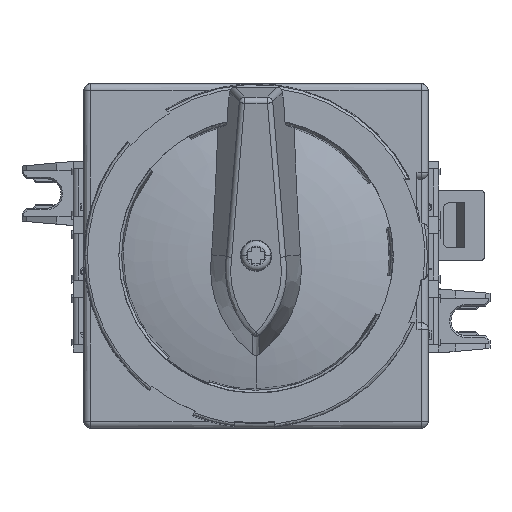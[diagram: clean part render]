
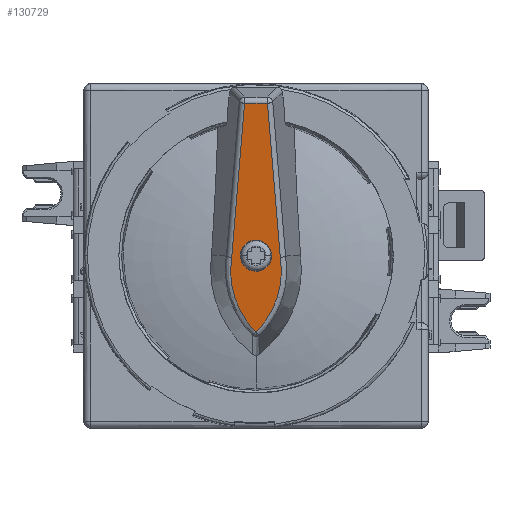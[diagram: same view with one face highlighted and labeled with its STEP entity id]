
A CAD part, top view. The second image highlights one B-rep face of the part: STEP entity #130729.
In plain terms, the highlighted planar face has unit normal (0, -0.159, 0.987).
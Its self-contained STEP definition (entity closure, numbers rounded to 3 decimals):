
#670 = EDGE_LOOP ( 'NONE', ( #82387, #173853 ) ) ;
#3669 =( BOUNDED_CURVE ( )  B_SPLINE_CURVE ( 3, ( #117276, #26530, #144587, #104889 ),
 .UNSPECIFIED., .F., .F. ) 
 B_SPLINE_CURVE_WITH_KNOTS ( ( 4, 4 ),
 ( 0., 1. ),
 .UNSPECIFIED. ) 
 CURVE ( )  GEOMETRIC_REPRESENTATION_ITEM ( )  RATIONAL_B_SPLINE_CURVE ( ( 1., 0.926, 0.926, 1. ) ) 
 REPRESENTATION_ITEM ( '' )  );
#4485 = DIRECTION ( 'NONE',  ( 0., 0.987, 0.159 ) ) ;
#5729 = VERTEX_POINT ( 'NONE', #119451 ) ;
#8077 = CARTESIAN_POINT ( 'NONE',  ( 3., 238.831, 158.683 ) ) ;
#18666 = VERTEX_POINT ( 'NONE', #103585 ) ;
#18946 = VECTOR ( 'NONE', #130253, 1000. ) ;
#23779 = VERTEX_POINT ( 'NONE', #35813 ) ;
#26530 = CARTESIAN_POINT ( 'NONE',  ( 6.735, 242.518, 159.276 ) ) ;
#35813 = CARTESIAN_POINT ( 'NONE',  ( -1.514, 252.689, 160.911 ) ) ;
#36093 = ORIENTED_EDGE ( 'NONE', *, *, #92495, .T. ) ;
#36099 = CARTESIAN_POINT ( 'NONE',  ( 3., 255.925, 161.432 ) ) ;
#37073 =( BOUNDED_CURVE ( )  B_SPLINE_CURVE ( 3, ( #63574, #158691, #62724, #173538 ),
 .UNSPECIFIED., .F., .T. ) 
 B_SPLINE_CURVE_WITH_KNOTS ( ( 4, 4 ),
 ( 0., 1. ),
 .UNSPECIFIED. ) 
 CURVE ( )  GEOMETRIC_REPRESENTATION_ITEM ( )  RATIONAL_B_SPLINE_CURVE ( ( 1., 0.333, 0.333, 1. ) ) 
 REPRESENTATION_ITEM ( '' )  );
#37820 = CARTESIAN_POINT ( 'NONE',  ( 7.514, 252.689, 160.911 ) ) ;
#39923 = VECTOR ( 'NONE', #59516, 1000. ) ;
#41390 = VERTEX_POINT ( 'NONE', #37820 ) ;
#43957 = CARTESIAN_POINT ( 'NONE',  ( -2.361, 247.509, 160.078 ) ) ;
#50111 = EDGE_CURVE ( 'NONE', #23779, #119622, #143575, .T. ) ;
#59516 = DIRECTION ( 'NONE',  ( -0.082, 0.984, 0.158 ) ) ;
#60366 = CARTESIAN_POINT ( 'NONE',  ( 9.013, 234.69, 158.017 ) ) ;
#62724 = CARTESIAN_POINT ( 'NONE',  ( -2.8, 250.125, 160.499 ) ) ;
#62930 = ORIENTED_EDGE ( 'NONE', *, *, #50111, .T. ) ;
#63574 = CARTESIAN_POINT ( 'NONE',  ( 3., 255.925, 161.432 ) ) ;
#67882 = PLANE ( 'NONE',  #171661 ) ;
#70496 = CARTESIAN_POINT ( 'NONE',  ( 9., 234.689, 158.017 ) ) ;
#73120 = VERTEX_POINT ( 'NONE', #169266 ) ;
#73696 = VERTEX_POINT ( 'NONE', #80860 ) ;
#74550 = ORIENTED_EDGE ( 'NONE', *, *, #132365, .T. ) ;
#80860 = CARTESIAN_POINT ( 'NONE',  ( 3., 250.125, 160.499 ) ) ;
#82387 = ORIENTED_EDGE ( 'NONE', *, *, #103582, .F. ) ;
#87859 = EDGE_CURVE ( 'NONE', #18666, #23779, #147155, .T. ) ;
#87958 = CARTESIAN_POINT ( 'NONE',  ( 9., 281.351, 165.521 ) ) ;
#89708 = EDGE_CURVE ( 'NONE', #73696, #5729, #140501, .T. ) ;
#92495 = EDGE_CURVE ( 'NONE', #73120, #18666, #167240, .T. ) ;
#95875 = CARTESIAN_POINT ( 'NONE',  ( -0.735, 242.518, 159.276 ) ) ;
#103582 = EDGE_CURVE ( 'NONE', #5729, #73696, #37073, .T. ) ;
#103585 = CARTESIAN_POINT ( 'NONE',  ( 0.873, 281.351, 165.521 ) ) ;
#104085 = ORIENTED_EDGE ( 'NONE', *, *, #87859, .T. ) ;
#104889 = CARTESIAN_POINT ( 'NONE',  ( 7.514, 252.689, 160.911 ) ) ;
#106576 = DIRECTION ( 'NONE',  ( -0.082, -0.984, -0.158 ) ) ;
#112736 = CARTESIAN_POINT ( 'NONE',  ( 3., 250.125, 160.499 ) ) ;
#117276 = CARTESIAN_POINT ( 'NONE',  ( 3., 238.831, 158.683 ) ) ;
#118989 = CARTESIAN_POINT ( 'NONE',  ( -2.933, 235.657, 158.172 ) ) ;
#119451 = CARTESIAN_POINT ( 'NONE',  ( 3., 255.925, 161.432 ) ) ;
#119622 = VERTEX_POINT ( 'NONE', #8077 ) ;
#127342 = LINE ( 'NONE', #60366, #39923 ) ;
#128165 = VECTOR ( 'NONE', #106576, 1000. ) ;
#130253 = DIRECTION ( 'NONE',  ( -1., 0., 0. ) ) ;
#130604 = EDGE_CURVE ( 'NONE', #119622, #41390, #3669, .T. ) ;
#130729 = ADVANCED_FACE ( 'NONE', ( #137478, #151525 ), #67882, .T. ) ;
#132365 = EDGE_CURVE ( 'NONE', #41390, #73120, #127342, .T. ) ;
#136290 = ORIENTED_EDGE ( 'NONE', *, *, #130604, .T. ) ;
#137478 = FACE_BOUND ( 'NONE', #670, .T. ) ;
#140501 =( BOUNDED_CURVE ( )  B_SPLINE_CURVE ( 3, ( #112736, #155859, #168190, #36099 ),
 .UNSPECIFIED., .F., .T. ) 
 B_SPLINE_CURVE_WITH_KNOTS ( ( 4, 4 ),
 ( 0., 1. ),
 .UNSPECIFIED. ) 
 CURVE ( )  GEOMETRIC_REPRESENTATION_ITEM ( )  RATIONAL_B_SPLINE_CURVE ( ( 1., 0.333, 0.333, 1. ) ) 
 REPRESENTATION_ITEM ( '' )  );
#143575 =( BOUNDED_CURVE ( )  B_SPLINE_CURVE ( 3, ( #152272, #43957, #95875, #166313 ),
 .UNSPECIFIED., .F., .T. ) 
 B_SPLINE_CURVE_WITH_KNOTS ( ( 4, 4 ),
 ( 0., 1. ),
 .UNSPECIFIED. ) 
 CURVE ( )  GEOMETRIC_REPRESENTATION_ITEM ( )  RATIONAL_B_SPLINE_CURVE ( ( 1., 0.926, 0.926, 1. ) ) 
 REPRESENTATION_ITEM ( '' )  );
#144587 = CARTESIAN_POINT ( 'NONE',  ( 8.361, 247.509, 160.078 ) ) ;
#147155 = LINE ( 'NONE', #118989, #128165 ) ;
#148896 = DIRECTION ( 'NONE',  ( 0., -0.159, 0.987 ) ) ;
#151525 = FACE_OUTER_BOUND ( 'NONE', #170993, .T. ) ;
#152272 = CARTESIAN_POINT ( 'NONE',  ( -1.514, 252.689, 160.911 ) ) ;
#155859 = CARTESIAN_POINT ( 'NONE',  ( 8.8, 250.125, 160.499 ) ) ;
#158691 = CARTESIAN_POINT ( 'NONE',  ( -2.8, 255.925, 161.432 ) ) ;
#166313 = CARTESIAN_POINT ( 'NONE',  ( 3., 238.831, 158.683 ) ) ;
#167240 = LINE ( 'NONE', #87958, #18946 ) ;
#168190 = CARTESIAN_POINT ( 'NONE',  ( 8.8, 255.925, 161.432 ) ) ;
#169266 = CARTESIAN_POINT ( 'NONE',  ( 5.127, 281.351, 165.521 ) ) ;
#170993 = EDGE_LOOP ( 'NONE', ( #74550, #36093, #104085, #62930, #136290 ) ) ;
#171661 = AXIS2_PLACEMENT_3D ( 'NONE', #70496, #148896, #4485 ) ;
#173538 = CARTESIAN_POINT ( 'NONE',  ( 3., 250.125, 160.499 ) ) ;
#173853 = ORIENTED_EDGE ( 'NONE', *, *, #89708, .F. ) ;
